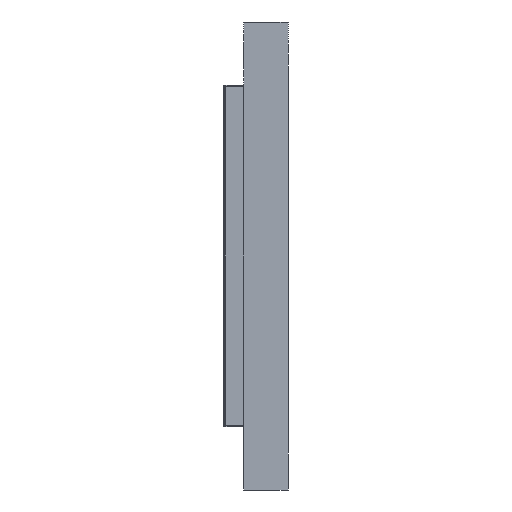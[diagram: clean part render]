
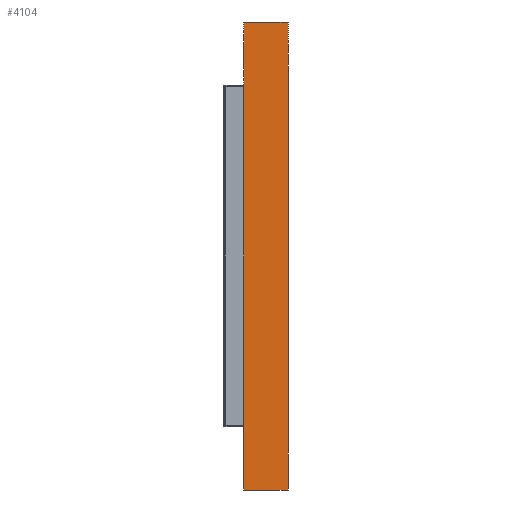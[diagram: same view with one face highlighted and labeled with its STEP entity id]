
A CAD part, left-side view. The second image highlights one B-rep face of the part: STEP entity #4104.
In plain terms, the highlighted planar face has unit normal (-1, 0, 0).
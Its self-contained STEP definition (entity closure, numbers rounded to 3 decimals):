
#937=DIRECTION('',(0.,1.,0.));
#938=VECTOR('',#937,10.);
#939=CARTESIAN_POINT('',(-255.65,0.,52.5));
#940=LINE('',#939,#938);
#941=DIRECTION('',(0.,0.,1.));
#942=VECTOR('',#941,105.);
#943=CARTESIAN_POINT('',(-255.65,0.,-52.5));
#944=LINE('',#943,#942);
#945=DIRECTION('',(0.,-1.,0.));
#946=VECTOR('',#945,10.);
#947=CARTESIAN_POINT('',(-255.65,10.,-52.5));
#948=LINE('',#947,#946);
#949=DIRECTION('',(0.,0.,-1.));
#950=VECTOR('',#949,105.);
#951=CARTESIAN_POINT('',(-255.65,10.,52.5));
#952=LINE('',#951,#950);
#2641=CARTESIAN_POINT('',(-255.65,0.,52.5));
#2642=CARTESIAN_POINT('',(-255.65,10.,52.5));
#2643=VERTEX_POINT('',#2641);
#2644=VERTEX_POINT('',#2642);
#2645=CARTESIAN_POINT('',(-255.65,10.,-52.5));
#2646=VERTEX_POINT('',#2645);
#2647=CARTESIAN_POINT('',(-255.65,0.,-52.5));
#2648=VERTEX_POINT('',#2647);
#4093=CARTESIAN_POINT('',(-255.65,0.,0.));
#4094=DIRECTION('',(-1.,0.,0.));
#4095=DIRECTION('',(0.,-1.,0.));
#4096=AXIS2_PLACEMENT_3D('',#4093,#4094,#4095);
#4097=PLANE('',#4096);
#4098=ORIENTED_EDGE('',*,*,#3489,.F.);
#4099=ORIENTED_EDGE('',*,*,#3504,.F.);
#4100=ORIENTED_EDGE('',*,*,#3626,.F.);
#4101=ORIENTED_EDGE('',*,*,#3639,.F.);
#4102=EDGE_LOOP('',(#4098,#4099,#4100,#4101));
#4103=FACE_OUTER_BOUND('',#4102,.F.);
#4104=ADVANCED_FACE('',(#4103),#4097,.T.);
#3489=EDGE_CURVE('',#2643,#2644,#940,.T.);
#3504=EDGE_CURVE('',#2648,#2643,#944,.T.);
#3626=EDGE_CURVE('',#2646,#2648,#948,.T.);
#3639=EDGE_CURVE('',#2644,#2646,#952,.T.);
